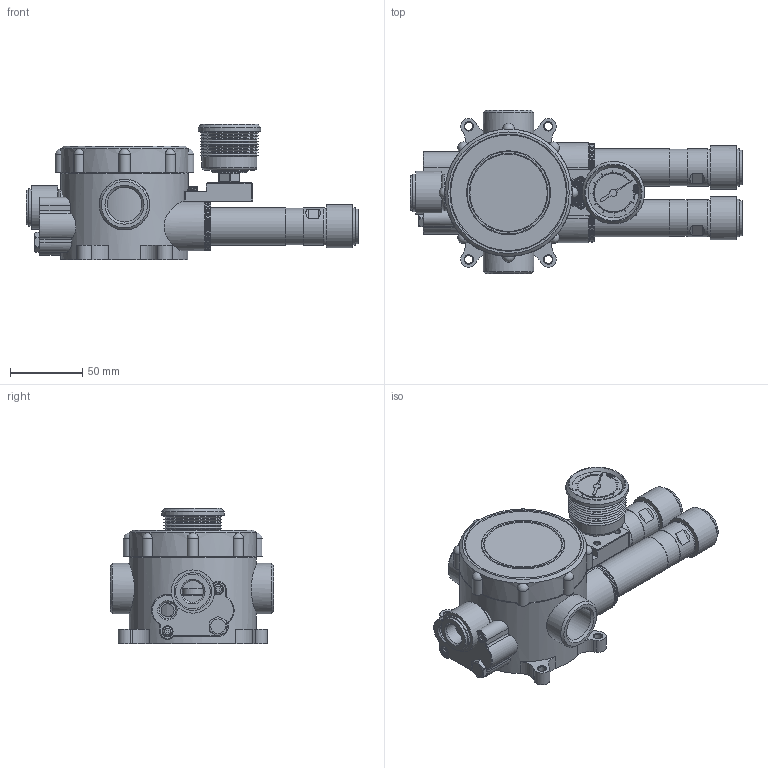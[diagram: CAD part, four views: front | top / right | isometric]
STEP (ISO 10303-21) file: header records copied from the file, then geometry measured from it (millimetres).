
FILE_DESCRIPTION( ( 'Unknown' ), '1' );
FILE_NAME( 'C:/Documents and Settings/owner/官帕 拳搁/肺流抛捞喉/磐撇 七橇/MINI+MIDI/VTC3032P-2.stp', 'Unknown', ( 'Unknown' ), ( 'Unknown' ), 'XStep 1.0', 'Unknown', ' ' );
FILE_SCHEMA( ( 'automotive_design' ) );
Length unit declared in the file: millimetre
Products named in the file (6): Assem1; VTC 3022_Sub Assy; Plug18_BS; VTG-18; VC303P; Plug18_New_PPS
Bounding box: 229.5 x 113.15 x 93.5 mm (x, y, z)
Volume: 1243198.6 mm3; surface area: 227522.8 mm2
Topology: 11 solids, 47 shells, 1749 faces, 4250 edges, 2742 vertices
Faces by surface type: plane 861, cylinder 598, cone 179, torus 65, sphere 20, bspline 14, revolution 8, extrusion 4
Full cylindrical faces by diameter (mm): 0.518 x2, 2.4 x4, 3 x26, 3.5 x12, 4.5 x4, 5 x4, 5.5 x20, 6.5 x6, 7 x6, 8.6 x2, 8.8 x4, 9 x4, 9.6 x2, 9.7 x4, 11.4 x2, 12.8 x2, 14.8 x2, 14.95 x3, 15.4 x3, 17 x3, 23 x2, 24 x7, 24.6 x2, 25 x7, 25.3 x3, 25.9 x6, 26 x3, 26.5 x4, 27.867 x6, 32.834 x6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
Entity records: 28799 total; most frequent: CARTESIAN_POINT 9411, DIRECTION 4038, ORIENTED_EDGE 3546, EDGE_CURVE 1773, AXIS2_PLACEMENT_3D 1519, VERTEX_POINT 1228, EDGE_LOOP 1139, VECTOR 996
